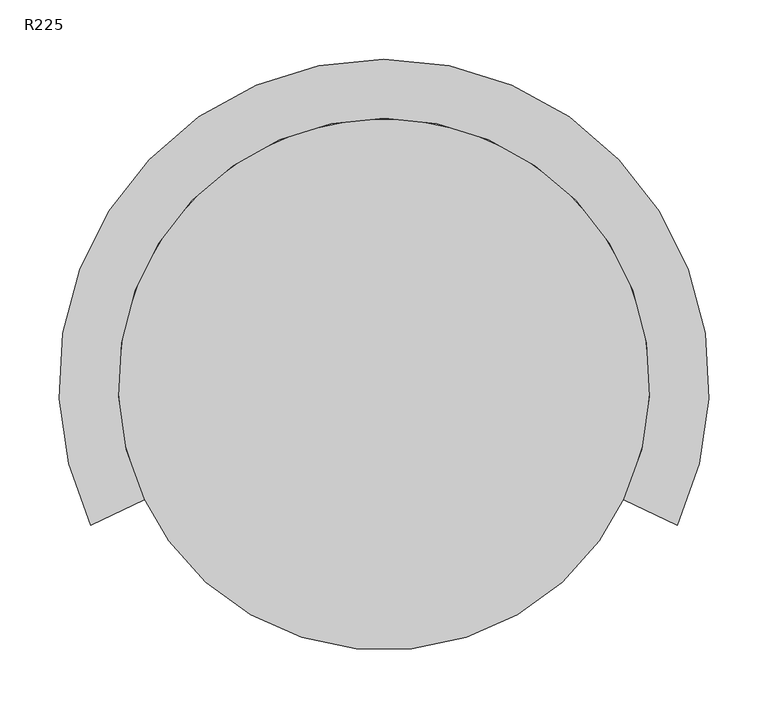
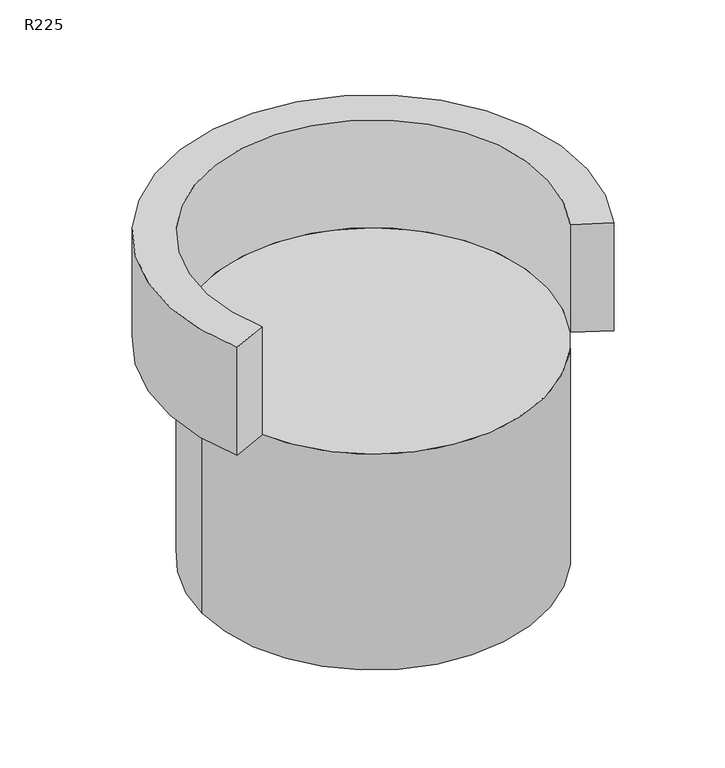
"""IFC4 building model written with IfcOpenShell, lengths in millimetres: furniture geometry, Fu_пуф_LEG : R225."""

from ifc_helpers import new_model, si_unit, point, frame, frame_2d, origin, origin_with_axes, place, context, project, spatial, polyline, circle_curve, trimmed, segment, composite_curve, outline, extrude, source, transform, mapped, element, save


def r225_6250b2e2(model_context):
    return source(origin(), model_context, "Body", "SweptSolid", [
        extrude(outline(composite_curve([segment(polyline([(362.1547728, 80.7484535), (317.076377, 102.4238436)]), True, "CONTINUOUS"), segment(trimmed(circle_curve(frame_2d((114.3, 199.9263613)), 225.0), [point((317.076377, 102.4238436))], [point((-88.476377, 102.4238436))], True, "CARTESIAN"), True, "CONTINUOUS"), segment(polyline([(-88.476377, 102.4238436), (-133.5547728, 80.7484535)]), True, "CONTINUOUS"), segment(trimmed(circle_curve(frame_2d((114.3, 199.8828801)), 275.0), [point((-133.5547728, 80.7484535))], [point((362.1547728, 80.7484535))], False, "CARTESIAN"), True, "CONTINUOUS")], self_intersect=False)), frame((0.0, 0.0, 300.0), z_axis=(0.0, 0.0, 1.0), x_axis=(1.0, 0.0, 0.0)), (0.0, 0.0, 1.0), 150.0),
        extrude(outline(composite_curve([segment(trimmed(circle_curve(frame_2d((114.3, 199.9263613)), 225.0), [point((-110.7, 199.9263613))], [point((339.3, 199.9263613))], False, "CARTESIAN"), True, "CONTINUOUS"), segment(trimmed(circle_curve(frame_2d((114.3, 199.9263613)), 225.0), [point((339.3, 199.9263613))], [point((-110.7, 199.9263613))], False, "CARTESIAN"), True, "CONTINUOUS")], self_intersect=False)), origin_with_axes(), (0.0, 0.0, 1.0), 300.0),
    ])


if __name__ == "__main__":
    model = new_model("IFC4")
    model_context = context("Model", 3, world=origin())
    ifc_project = project(units=[si_unit("LENGTHUNIT", "METRE", prefix="MILLI")], contexts=[model_context])
    site = spatial("IfcSite", under=ifc_project)
    building = spatial("IfcBuilding", under=site)
    placement = place(None, origin())
    r225_shape = r225_6250b2e2(model_context)
    element("IfcFurniture", 1, ObjectType="Fu_пуф_LEG : R225", at=placement, inside=building, context=model_context, shape_type="MappedRepresentation", body=[
        mapped(r225_shape, transform((0.0, 0.0, 0.0), x_axis=(1.0, 0.0, 0.0), y_axis=(0.0, 1.0, 0.0), z_axis=(0.0, 0.0, 1.0))),
    ])
    save(model, "model.ifc")
